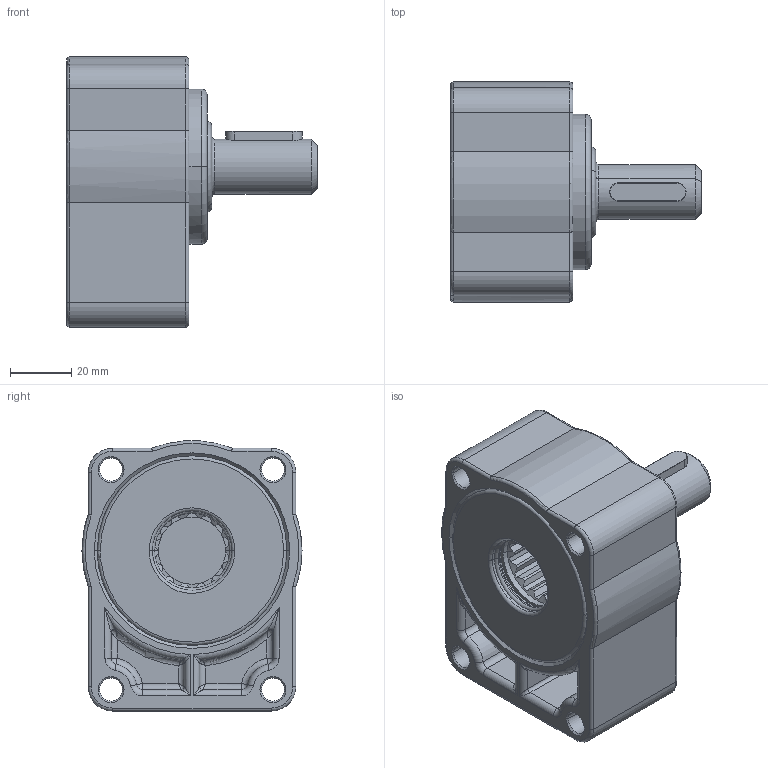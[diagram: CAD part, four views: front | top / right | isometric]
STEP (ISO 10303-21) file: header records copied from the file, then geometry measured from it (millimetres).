
FILE_DESCRIPTION((''),'2;1');
FILE_NAME('25601ZHIJIAZUHE_ASM','2021-02-24T',('dell'),(''),'PRO/ENGINEER BY PARAMETRIC TECHNOLOGY CORPORATION, 2011310','PRO/ENGINEER BY PARAMETRIC TECHNOLOGY CORPORATION, 2011310','');
FILE_SCHEMA(('CONFIG_CONTROL_DESIGN'));
Length unit declared in the file: millimetre
Products named in the file (1): 25601ZHIJIAZUHE_ASM
Bounding box: 82 x 72 x 88.4 mm (x, y, z)
Surface area: 58215.6 mm2 (no closed solid volume)
Topology: 0 solids, 5 shells, 369 faces, 922 edges, 546 vertices
Faces by surface type: cylinder 161, plane 80, torus 56, cone 32, bspline 26, sphere 14
Entity records: 15609 total; most frequent: CARTESIAN_POINT 6916, DIRECTION 1909, ORIENTED_EDGE 1772, EDGE_CURVE 886, AXIS2_PLACEMENT_3D 808, VERTEX_POINT 546, CIRCLE 465, EDGE_LOOP 404
